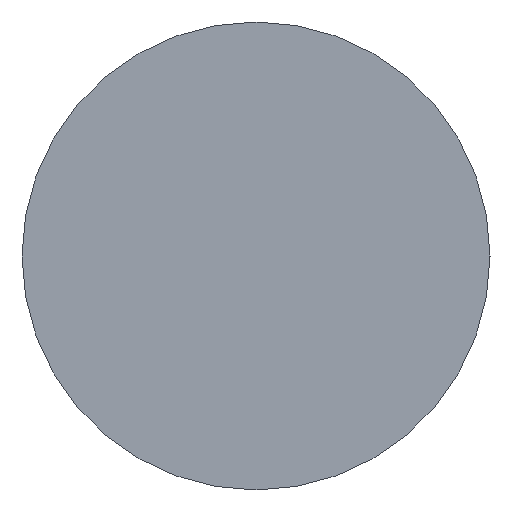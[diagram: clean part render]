
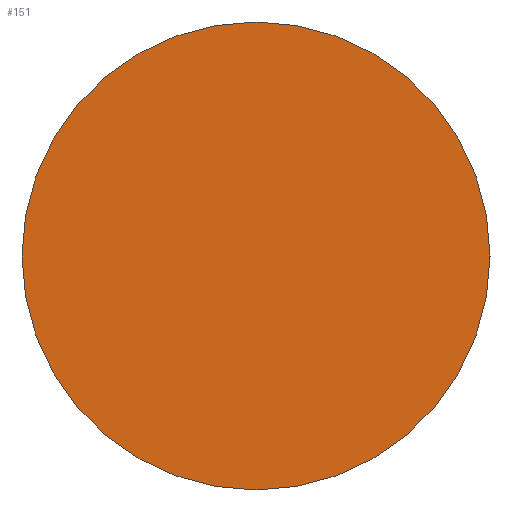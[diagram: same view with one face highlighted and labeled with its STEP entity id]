
A CAD part, left-side view. The second image highlights one B-rep face of the part: STEP entity #151.
In plain terms, the highlighted planar face has unit normal (-1, 0, 0).
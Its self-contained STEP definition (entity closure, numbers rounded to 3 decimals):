
#15 = CIRCLE ( 'NONE', #16, 5. ) ;
#16 = AXIS2_PLACEMENT_3D ( 'NONE', #20, #21, #22 ) ;
#20 = CARTESIAN_POINT ( 'NONE',  ( 0., 0., 0. ) ) ;
#21 = DIRECTION ( 'NONE',  ( -1., 0., 0. ) ) ;
#22 = DIRECTION ( 'NONE',  ( 0., 0., 1. ) ) ;
#151 = ADVANCED_FACE ( 'NONE', ( #303 ), #304, .F. ) ;
#152 = VERTEX_POINT ( 'NONE', #309 ) ;
#163 = VERTEX_POINT ( 'NONE', #341 ) ;
#198 = EDGE_CURVE ( 'NONE', #163, #152, #292, .T. ) ;
#208 = EDGE_CURVE ( 'NONE', #152, #163, #15, .T. ) ;
#292 = CIRCLE ( 'NONE', #293, 5. ) ;
#293 = AXIS2_PLACEMENT_3D ( 'NONE', #294, #295, #296 ) ;
#294 = CARTESIAN_POINT ( 'NONE',  ( 0., 0., 0. ) ) ;
#295 = DIRECTION ( 'NONE',  ( -1., 0., 0. ) ) ;
#296 = DIRECTION ( 'NONE',  ( 0., 0., 1. ) ) ;
#303 = FACE_OUTER_BOUND ( 'NONE', #353, .T. ) ;
#304 = PLANE ( 'NONE',  #305 ) ;
#305 = AXIS2_PLACEMENT_3D ( 'NONE', #306, #307, #308 ) ;
#306 = CARTESIAN_POINT ( 'NONE',  ( 0., 0., 0. ) ) ;
#307 = DIRECTION ( 'NONE',  ( 1., 0., 0. ) ) ;
#308 = DIRECTION ( 'NONE',  ( 0., 0., -1. ) ) ;
#309 = CARTESIAN_POINT ( 'NONE',  ( 0., 0., -5. ) ) ;
#341 = CARTESIAN_POINT ( 'NONE',  ( 0., 0., 5. ) ) ;
#347 = ORIENTED_EDGE ( 'NONE', *, *, #208, .T. ) ;
#349 = ORIENTED_EDGE ( 'NONE', *, *, #198, .T. ) ;
#353 = EDGE_LOOP ( 'NONE', ( #349, #347 ) ) ;
